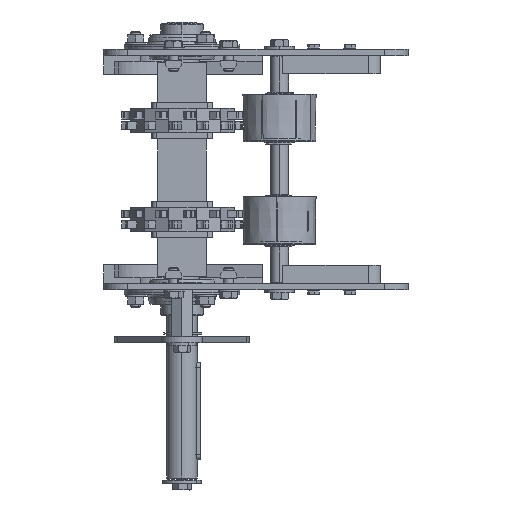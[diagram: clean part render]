
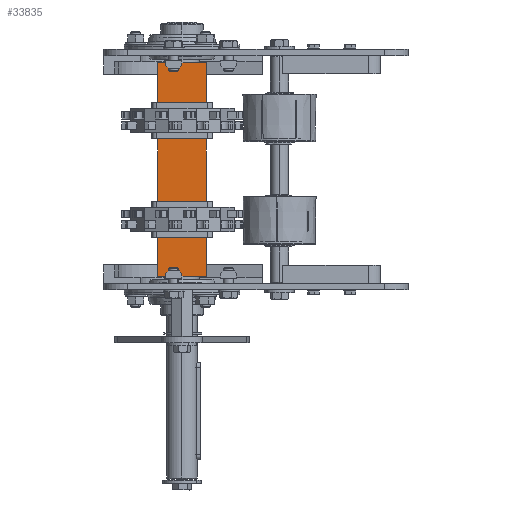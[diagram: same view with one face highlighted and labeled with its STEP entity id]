
A CAD part, left-side view. The second image highlights one B-rep face of the part: STEP entity #33835.
In plain terms, the highlighted planar face has unit normal (-1, 0, 0) as drawn and (1, 0, 0) by its records, which use the part's own axes.
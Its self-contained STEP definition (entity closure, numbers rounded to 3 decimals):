
#681 = CARTESIAN_POINT ( 'NONE',  ( 20., 20., -87.5 ) ) ;
#3591 = LINE ( 'NONE', #681, #33459 ) ;
#3716 = VERTEX_POINT ( 'NONE', #28032 ) ;
#3979 = EDGE_CURVE ( 'NONE', #14853, #36251, #14571, .T. ) ;
#7089 = DIRECTION ( 'NONE',  ( 0., 0., -1. ) ) ;
#8733 = DIRECTION ( 'NONE',  ( 0., 1., 0. ) ) ;
#9772 = DIRECTION ( 'NONE',  ( -1., 0., 0. ) ) ;
#10620 = ORIENTED_EDGE ( 'NONE', *, *, #24876, .F. ) ;
#10869 = CARTESIAN_POINT ( 'NONE',  ( 20., -20., 87.5 ) ) ;
#12424 = CARTESIAN_POINT ( 'NONE',  ( 20., 20., 87.5 ) ) ;
#12979 = EDGE_LOOP ( 'NONE', ( #23373, #10620, #26986, #27423 ) ) ;
#13742 = DIRECTION ( 'NONE',  ( 0., 0., -1. ) ) ;
#14571 = LINE ( 'NONE', #35384, #28750 ) ;
#14853 = VERTEX_POINT ( 'NONE', #28602 ) ;
#15106 = EDGE_CURVE ( 'NONE', #3716, #24644, #3591, .T. ) ;
#21152 = VECTOR ( 'NONE', #13742, 1000. ) ;
#21609 = DIRECTION ( 'NONE',  ( 0., -1., 0. ) ) ;
#23373 = ORIENTED_EDGE ( 'NONE', *, *, #15106, .T. ) ;
#23965 = DIRECTION ( 'NONE',  ( 0., 1., 0. ) ) ;
#24644 = VERTEX_POINT ( 'NONE', #29566 ) ;
#24876 = EDGE_CURVE ( 'NONE', #36251, #24644, #28089, .T. ) ;
#26986 = ORIENTED_EDGE ( 'NONE', *, *, #3979, .F. ) ;
#27423 = ORIENTED_EDGE ( 'NONE', *, *, #27965, .T. ) ;
#27965 = EDGE_CURVE ( 'NONE', #14853, #3716, #28941, .T. ) ;
#28032 = CARTESIAN_POINT ( 'NONE',  ( 20., -20., -87.5 ) ) ;
#28089 = LINE ( 'NONE', #36647, #37637 ) ;
#28602 = CARTESIAN_POINT ( 'NONE',  ( 20., -20., 87.5 ) ) ;
#28750 = VECTOR ( 'NONE', #8733, 1000. ) ;
#28941 = LINE ( 'NONE', #10869, #21152 ) ;
#29566 = CARTESIAN_POINT ( 'NONE',  ( 20., 20., -87.5 ) ) ;
#32538 = FACE_OUTER_BOUND ( 'NONE', #12979, .T. ) ;
#32747 = AXIS2_PLACEMENT_3D ( 'NONE', #35911, #9772, #21609 ) ;
#33459 = VECTOR ( 'NONE', #23965, 1000. ) ;
#33835 = ADVANCED_FACE ( 'NONE', ( #32538 ), #36151, .F. ) ;
#35384 = CARTESIAN_POINT ( 'NONE',  ( 20., 20., 87.5 ) ) ;
#35911 = CARTESIAN_POINT ( 'NONE',  ( 20., 20., 87.5 ) ) ;
#36151 = PLANE ( 'NONE',  #32747 ) ;
#36251 = VERTEX_POINT ( 'NONE', #12424 ) ;
#36647 = CARTESIAN_POINT ( 'NONE',  ( 20., 20., 87.5 ) ) ;
#37637 = VECTOR ( 'NONE', #7089, 1000. ) ;
